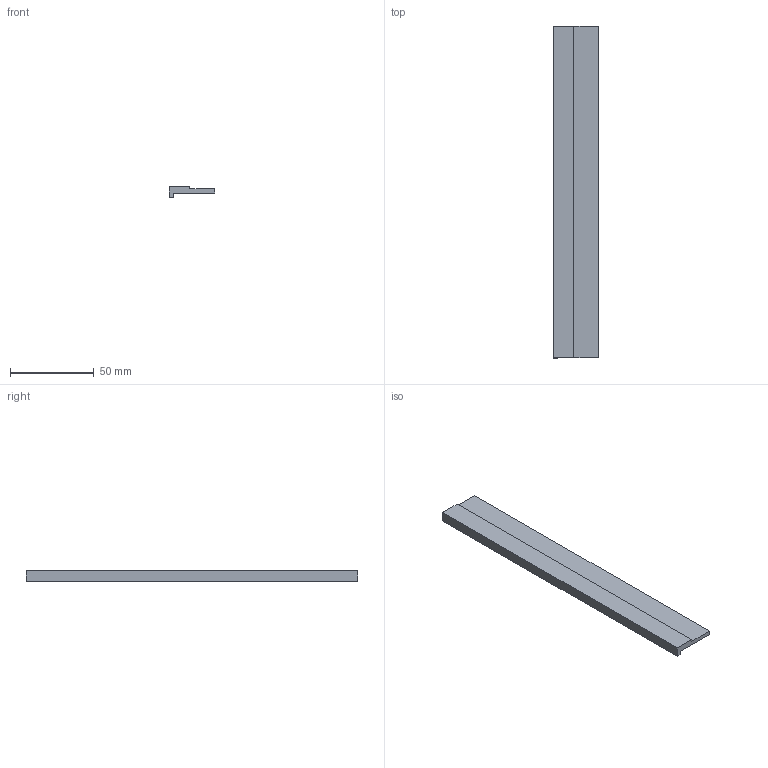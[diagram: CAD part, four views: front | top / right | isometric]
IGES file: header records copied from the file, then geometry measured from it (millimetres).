
Start section:  PTC IGES file: j4-500-frontcover.igs
Global section: file name: j4-500-frontcover.igs; native system: Pro/ENGINEER by Parametric Technology Corporation; preprocessor: 2010160; author: CV86875; organization: Unknown; date: 20121031.193935; units: millimetre
Bounding box: 27 x 198 x 6.2 mm (x, y, z)
Volume: 17501.2 mm3; surface area: 13324 mm2
Topology: 1 solids, 1 shells, 10 faces, 24 edges, 16 vertices
Faces by surface type: bspline 10
